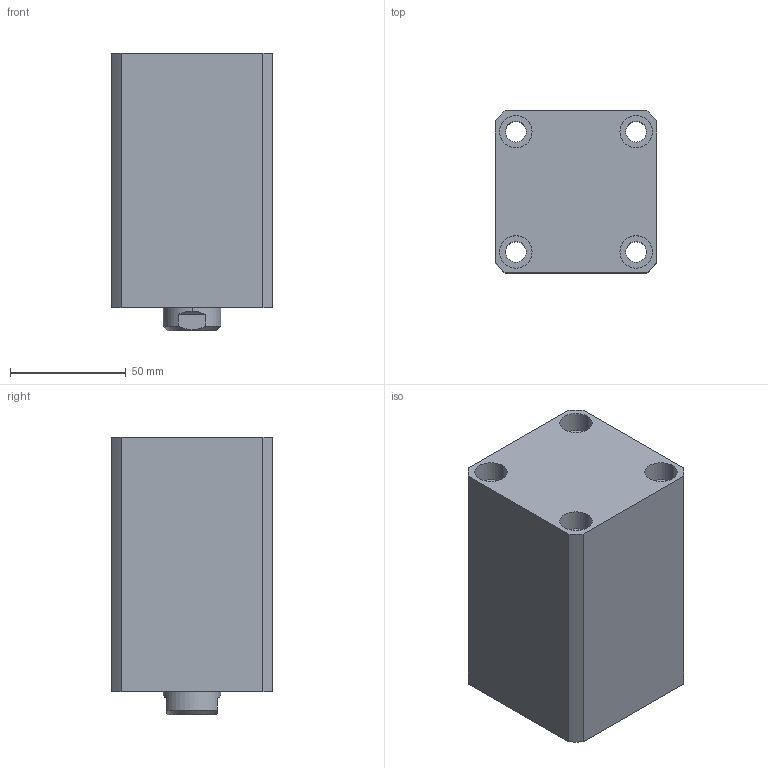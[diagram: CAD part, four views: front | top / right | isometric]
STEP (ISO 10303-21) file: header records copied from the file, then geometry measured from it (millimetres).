
FILE_DESCRIPTION (( 'STEP AP214' ), '1' );
FILE_NAME ('chtb-sd40x55n_asm.STEP', '2018-06-07T07:55:03', ( 'Windows' ), ( 'Microsoft' ), 'SwSTEP 2.0', 'SolidWorks 2015', '' );
FILE_SCHEMA (( 'AUTOMOTIVE_DESIGN' ));
Length unit declared in the file: millimetre
Products named in the file (4): CHTB-SD40QG; CHTB-SD40X55NHSG; CHTB-SD40X55NBT; chtb-sd40x55n_asm
Assembly tree (3 placements, depth 2):
  chtb-sd40x55n_asm
    CHTB-SD40X55NBT
    CHTB-SD40X55NHSG
    CHTB-SD40QG
Bounding box: 70 x 70 x 120 mm (x, y, z)
Volume: 450551.7 mm3; surface area: 91694.4 mm2
Topology: 3 solids, 3 shells, 157 faces, 401 edges, 266 vertices
Faces by surface type: cylinder 80, plane 36, torus 14, bspline 14, cone 13
Entity records: 9977 total; most frequent: CARTESIAN_POINT 6053, ORIENTED_EDGE 790, DIRECTION 768, EDGE_CURVE 395, AXIS2_PLACEMENT_3D 328, VERTEX_POINT 266, EDGE_LOOP 193, CIRCLE 179
